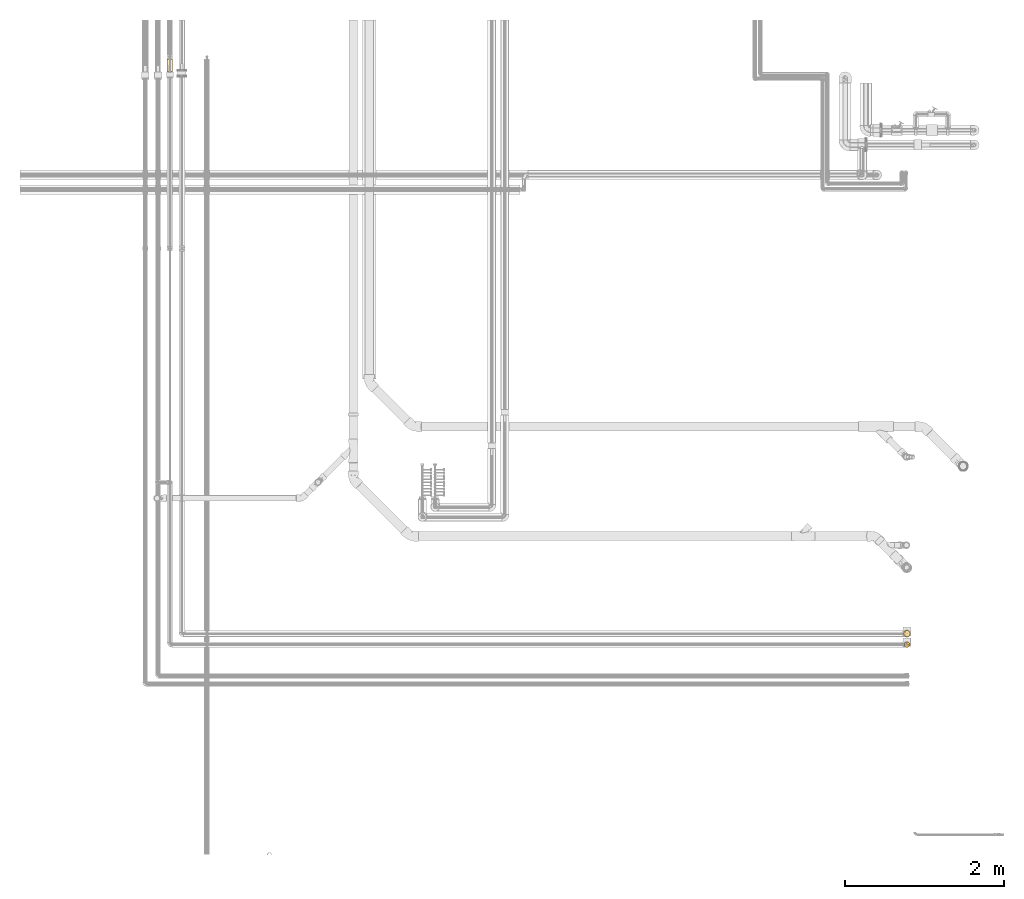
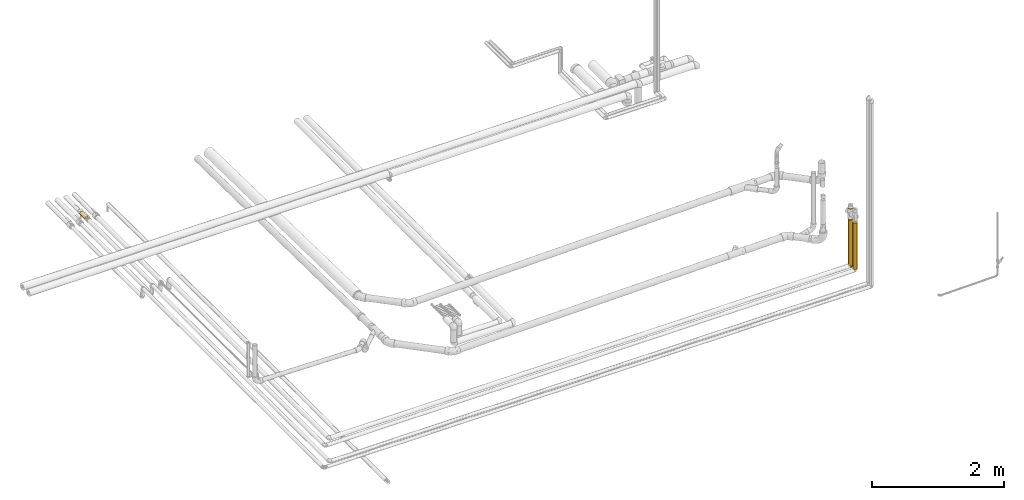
# One storey, part 5 of 83: 6 coverings.
"""IFC2X3 building model written with IfcOpenShell, lengths in millimetres."""

import ifcopenshell
import ifcopenshell.guid

model = None  # the IFC model being written
_history = None  # IfcOwnerHistory: only IFC2X3 demands one
_inside = {}  # id of a spatial element -> (the spatial element, [elements in it])
_under = {}  # id of a project, library or spatial element -> (it, [spatial elements below it])
_declared = {}  # id of a project -> (the project, [libraries it declares])
_typed = {}  # id of a type object -> (the type object, [elements of that type])
_made_of = {}  # id of a material, layer set ... -> (it, [elements and type objects made of it])


def new_model(schema):
    """Start an empty IFC model of exactly this schema.

    Asked for "IFC4X3", IfcOpenShell would pick the latest addendum, in which some entities
    have other attributes; the version numbers below select the first issue.
    IFC2X3 requires an IfcOwnerHistory on every rooted entity: one is made here for all.
    """
    global model, _history
    if schema == "IFC4X3":
        model = ifcopenshell.file(schema_version=(4, 3, 0, 0))
    else:
        model = ifcopenshell.file(schema=schema)
    _inside.clear()
    _under.clear()
    _declared.clear()
    _typed.clear()
    _made_of.clear()
    _history = None
    if model.schema == "IFC2X3":
        org = make("IfcOrganization", Name="unknown")
        user = make(
            "IfcPersonAndOrganization",
            ThePerson=make("IfcPerson", FamilyName="unknown"),
            TheOrganization=org,
        )
        app = make(
            "IfcApplication",
            ApplicationDeveloper=org,
            Version="unknown",
            ApplicationFullName="unknown",
            ApplicationIdentifier="unknown",
        )
        _history = make(
            "IfcOwnerHistory",
            OwningUser=user,
            OwningApplication=app,
            ChangeAction="ADDED",
            CreationDate=0,
        )
    return model


def make(cls, **values):
    """One entity of the class cls with the attributes given. An attribute that is None is left unset."""
    return model.create_entity(
        cls, **{name: value for name, value in values.items() if value is not None}
    )


def entity(cls, *values):
    """Any entity or typed value of the class cls, its attributes in the order of the schema. None: left unset."""
    e = model.create_entity(cls)
    for i, value in enumerate(values):
        if value is not None:
            e[i] = value
    return e


def rooted(cls, **values):
    """An entity with a GlobalId (a new one), such as an element, a storey or a relation."""
    return make(cls, GlobalId=ifcopenshell.guid.new(), OwnerHistory=_history, **values)


def si_unit(unit_type, name, prefix=None):
    """IfcSIUnit, for example si_unit("LENGTHUNIT", "METRE", prefix="MILLI")."""
    return make("IfcSIUnit", UnitType=unit_type, Prefix=prefix, Name=name)


def converted_unit(unit_type, name, factor, base, dimensions=None, offset=None):
    """IfcConversionBasedUnit, such as the inch: factor (a typed value) times the base unit."""
    return make(
        "IfcConversionBasedUnit"
        if offset is None
        else "IfcConversionBasedUnitWithOffset",
        ConversionOffset=offset,
        Dimensions=None
        if dimensions is None
        else entity("IfcDimensionalExponents", *dimensions),
        UnitType=unit_type,
        Name=name,
        ConversionFactor=make(
            "IfcMeasureWithUnit", ValueComponent=factor, UnitComponent=base
        ),
    )


def derived_unit(unit_type, elements):
    """IfcDerivedUnit: a product of units, each with its exponent."""
    return make(
        "IfcDerivedUnit",
        Elements=[
            make("IfcDerivedUnitElement", Unit=unit, Exponent=power)
            for unit, power in elements
        ],
        UnitType=unit_type,
    )


def assignment(units):
    """IfcUnitAssignment: the units of a project."""
    return None if units is None else make("IfcUnitAssignment", Units=units)


def point(xyz):
    """IfcCartesianPoint."""
    return None if xyz is None else make("IfcCartesianPoint", Coordinates=xyz)


def direction(xyz):
    """IfcDirection."""
    return None if xyz is None else make("IfcDirection", DirectionRatios=xyz)


def frame(location, z_axis=None, x_axis=None):
    """IfcAxis2Placement3D, a coordinate frame: its origin and axes. An axis left out is left unset."""
    return make(
        "IfcAxis2Placement3D",
        Location=point(location),
        Axis=direction(z_axis),
        RefDirection=direction(x_axis),
    )


def frame_2d(location, x_axis=None):
    """IfcAxis2Placement2D, a coordinate frame in the plane: its origin and x axis."""
    return make(
        "IfcAxis2Placement2D", Location=point(location), RefDirection=direction(x_axis)
    )


def origin_with_axes():
    """The frame at (0, 0, 0) with the z axis (0, 0, 1) and the x axis (1, 0, 0) written out."""
    return frame((0.0, 0.0, 0.0), z_axis=(0.0, 0.0, 1.0), x_axis=(1.0, 0.0, 0.0))


def origin_2d_with_axis():
    """The frame at (0, 0) in the plane with the x axis (1, 0) written out."""
    return frame_2d((0.0, 0.0), x_axis=(1.0, 0.0))


def place(relative_to, where):
    """IfcLocalPlacement: puts the frame where relative to a parent placement (None: the world)."""
    return make(
        "IfcLocalPlacement", PlacementRelTo=relative_to, RelativePlacement=where
    )


def context(
    kind, dimensions, precision=None, world=None, true_north=None, identifier=None
):
    """IfcGeometricRepresentationContext, for example the 3D "Model" context."""
    return make(
        "IfcGeometricRepresentationContext",
        ContextIdentifier=identifier,
        ContextType=kind,
        CoordinateSpaceDimension=dimensions,
        Precision=precision,
        WorldCoordinateSystem=world,
        TrueNorth=true_north,
    )


def subcontext(parent, identifier, kind, view, scale=None):
    """IfcGeometricRepresentationSubContext, for example "Body" below "Model"."""
    return make(
        "IfcGeometricRepresentationSubContext",
        ContextIdentifier=identifier,
        ContextType=kind,
        ParentContext=parent,
        TargetScale=scale,
        TargetView=view,
    )


def project(units=None, contexts=None):
    """IfcProject with its units and contexts."""
    return rooted(
        "IfcProject",
        Name="project",
        RepresentationContexts=contexts,
        UnitsInContext=assignment(units),
    )


def spatial(cls, under=None, at=None, **own):
    """A site, building, storey or space (cls), placed at a placement, below another one or the project."""
    s = rooted(cls, ObjectPlacement=at, **own)
    if under is not None:
        _under.setdefault(under.id(), (under, []))[1].append(s)
    return s


def profile(cls, at=None, kind="AREA", **sizes):
    """A parametric profile (cls). Its sizes go by their IFC names, for example OverallWidth=200.0."""
    return make(cls, ProfileType=kind, Position=at, **sizes)


def hollow_circle(**sizes):
    """IfcCircleHollowProfileDef."""
    return profile("IfcCircleHollowProfileDef", **sizes)


def extrude(swept, where, along, depth):
    """IfcExtrudedAreaSolid: the profile swept, set in the frame where, extruded along a direction by depth."""
    return make(
        "IfcExtrudedAreaSolid",
        SweptArea=swept,
        Position=where,
        ExtrudedDirection=direction(along),
        Depth=depth,
    )


def faces_of(points, faces, orient=None, outer=None):
    """IfcFace entities. A face is a list of loops; a loop is a list of indices into points, from 0.

    orient and outer hold one flag for each loop. By default every Orientation is true, the
    first loop of a face is its IfcFaceOuterBound and the others are IfcFaceBound.
    """
    made = []
    for i, loops in enumerate(faces):
        bounds = []
        for j, loop in enumerate(loops):
            is_outer = j == 0 if outer is None else outer[i][j]
            bounds.append(
                make(
                    "IfcFaceOuterBound" if is_outer else "IfcFaceBound",
                    Bound=make("IfcPolyLoop", Polygon=[points[k] for k in loop]),
                    Orientation=True if orient is None else orient[i][j],
                )
            )
        made.append(make("IfcFace", Bounds=bounds))
    return made


def open_shell(faces, orient=None, outer=None):
    """The faces of one IfcOpenShell. surface_model builds it on its shared points."""
    return ("IfcOpenShell", faces, orient, outer)


def surface_model(cls, points, shells):
    """IfcFaceBasedSurfaceModel or IfcShellBasedSurfaceModel (cls): surfaces that need not close."""
    shared = [point(p) for p in points]
    made = [make(c, CfsFaces=faces_of(shared, fs, o, b)) for c, fs, o, b in shells]
    if cls == "IfcFaceBasedSurfaceModel":
        return make(cls, FbsmFaces=made)
    return make(cls, SbsmBoundary=made)


def shape(context_of_items, identifier, shape_type, items):
    """IfcShapeRepresentation: the items that make up one representation, for example the "Body"."""
    return make(
        "IfcShapeRepresentation",
        ContextOfItems=context_of_items,
        RepresentationIdentifier=identifier,
        RepresentationType=shape_type,
        Items=items,
    )


def source(mapping_origin, context_of_items, identifier, shape_type, items):
    """IfcRepresentationMap: a shape defined once, which mapped items show again and again."""
    return make(
        "IfcRepresentationMap",
        MappingOrigin=mapping_origin,
        MappedRepresentation=shape(context_of_items, identifier, shape_type, items),
    )


def transform(
    local_origin,
    x_axis=None,
    y_axis=None,
    z_axis=None,
    scale=None,
    scale2=None,
    scale3=None,
    uniform=True,
):
    """IfcCartesianTransformationOperator3D, or its non-uniform kind. x_axis, y_axis, z_axis: its Axis1, 2, 3."""
    if uniform:
        return make(
            "IfcCartesianTransformationOperator3D",
            Axis1=direction(x_axis),
            Axis2=direction(y_axis),
            LocalOrigin=point(local_origin),
            Scale=scale,
            Axis3=direction(z_axis),
        )
    return make(
        "IfcCartesianTransformationOperator3DnonUniform",
        Axis1=direction(x_axis),
        Axis2=direction(y_axis),
        LocalOrigin=point(local_origin),
        Scale=scale,
        Axis3=direction(z_axis),
        Scale2=scale2,
        Scale3=scale3,
    )


def mapped(mapping_source, mapping_target):
    """IfcMappedItem: shows the shape of a source again, moved by a transform."""
    return make(
        "IfcMappedItem", MappingSource=mapping_source, MappingTarget=mapping_target
    )


def made_of(thing, what):
    """Note that an element or type object is made of a material, layer set ...; save() writes the relation."""
    if what is not None:
        _made_of.setdefault(what.id(), (what, []))[1].append(thing)
    return thing


def element(
    cls,
    number,
    at=None,
    inside=None,
    cuts=None,
    type_object=None,
    material=None,
    context=None,
    identifier="Body",
    shape_type=None,
    held_by="IfcProductDefinitionShape",
    body=None,
    shapes=None,
    **own,
):
    """One element of the class cls, such as IfcWall. Its Tag is "e" and its number.

    at: its placement. inside: the storey or other place that contains it. cuts: it is an
    opening in that element (IfcRelVoidsElement). A single representation is given by context,
    identifier, shape_type and body (its items); several are given by shapes. held_by: the class
    of the entity that holds the representations. save() writes the other relations.
    """
    e = rooted(cls, Tag="e%d" % number, ObjectPlacement=at, **own)
    if body is not None:
        shapes = [shape(context, identifier, shape_type, body)]
    if shapes is not None:
        e.Representation = make(held_by, Representations=shapes)
    if inside is not None:
        _inside.setdefault(inside.id(), (inside, []))[1].append(e)
    if cuts is not None:
        rooted(
            "IfcRelVoidsElement", RelatingBuildingElement=cuts, RelatedOpeningElement=e
        )
    if type_object is not None:
        _typed.setdefault(type_object.id(), (type_object, []))[1].append(e)
    return made_of(e, material)


def aggregate(whole, parts):
    """IfcRelAggregates: a whole, such as a stair, and the parts it consists of."""
    return rooted("IfcRelAggregates", RelatingObject=whole, RelatedObjects=parts)


def save(model, path):
    """Write the relations noted so far, then the file.

    IfcRelAggregates (storeys below a building ...), IfcRelContainedInSpatialStructure (elements
    in a storey), IfcRelDefinesByType, IfcRelAssociatesMaterial and IfcRelDeclares: one each for
    every whole, place, type object, material and project.
    """
    for whole, parts in _under.values():
        aggregate(whole, parts)
    for where, things in _inside.values():
        rooted(
            "IfcRelContainedInSpatialStructure",
            RelatedElements=things,
            RelatingStructure=where,
        )
    for kind, things in _typed.values():
        rooted("IfcRelDefinesByType", RelatedObjects=things, RelatingType=kind)
    for what, things in _made_of.values():
        rooted("IfcRelAssociatesMaterial", RelatedObjects=things, RelatingMaterial=what)
    for by, libraries in _declared.values():
        rooted("IfcRelDeclares", RelatingContext=by, RelatedDefinitions=libraries)
    model.write(path)


model = new_model("IFC2X3")

# Units and contexts
model_context = context("Model", 3, precision=0.01, world=frame((0.0, 4.29681676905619e-09, 0.0)), true_north=direction((4.01073788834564e-13, 1.0)))
plan_context = context("Plan", 3, precision=0.01, world=frame((0.0, 4.29681676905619e-09, 0.0)), true_north=direction((4.01073788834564e-13, 1.0)))
body_context = subcontext(model_context, "Body", "Model", "MODEL_VIEW")
ifc_project = project(units=[converted_unit("PLANEANGLEUNIT", "DEGREE", entity("IfcPositiveLengthMeasure", 0.0174532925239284), si_unit("PLANEANGLEUNIT", "RADIAN"), dimensions=[0, 0, 0, 0, 0, 0, 0]), si_unit("AREAUNIT", "SQUARE_METRE"), si_unit("LENGTHUNIT", "METRE", prefix="MILLI"), si_unit("MASSUNIT", "GRAM", prefix="KILO"), si_unit("POWERUNIT", "WATT"), si_unit("PRESSUREUNIT", "PASCAL"), si_unit("FORCEUNIT", "NEWTON", prefix="KILO"), si_unit("ELECTRICVOLTAGEUNIT", "VOLT"), si_unit("ELECTRICCURRENTUNIT", "AMPERE"), si_unit("THERMODYNAMICTEMPERATUREUNIT", "DEGREE_CELSIUS"), si_unit("TIMEUNIT", "SECOND"), si_unit("VOLUMEUNIT", "CUBIC_METRE"), derived_unit("LINEARVELOCITYUNIT", [(si_unit("LENGTHUNIT", "METRE"), 1), (si_unit("TIMEUNIT", "SECOND"), -1)]), derived_unit("VOLUMETRICFLOWRATEUNIT", [(si_unit("VOLUMEUNIT", "CUBIC_METRE"), 1), (si_unit("TIMEUNIT", "SECOND"), -1)]), derived_unit("THERMALTRANSMITTANCEUNIT", [(si_unit("POWERUNIT", "WATT"), 1), (si_unit("THERMODYNAMICTEMPERATUREUNIT", "KELVIN"), -1), (si_unit("AREAUNIT", "SQUARE_METRE"), -1)]), derived_unit("SOUNDPRESSUREUNIT", [(si_unit("PRESSUREUNIT", "PASCAL"), 1)])], contexts=[model_context, plan_context])

# Site, building, storey
site_placement = place(None, frame((0.0, -4.29681676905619e-09, 0.0), z_axis=(0.0, 0.0, 1.0), x_axis=(1.0, 0.0, 0.0)))
site = spatial("IfcSite", under=ifc_project, at=site_placement, Name="ENGM", CompositionType="ELEMENT")
building_placement = place(site_placement, frame((0.0, 4.29681676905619e-09, 0.0), z_axis=(0.0, 0.0, 1.0), x_axis=(1.0, 0.0, 0.0)))
building = spatial("IfcBuilding", under=site, at=building_placement, Name="TI", CompositionType="ELEMENT")
storey_placement = place(building_placement, frame((0.0, 0.0, 204000.0), z_axis=(0.0, 0.0, 1.0), x_axis=(1.0, 0.0, 0.0)))
storey = spatial("IfcBuildingStorey", under=building, at=storey_placement, Name="Nivå D", CompositionType="ELEMENT", Elevation=204000.0)

# Coverings
shared_shape_1 = source(origin_with_axes(), body_context, "Body", "SweptSolid", [
    extrude(hollow_circle(Radius=35.0, WallThickness=21.0, at=origin_2d_with_axis()), frame((0.0, 0.0, 0.0), z_axis=(1.0, 0.0, 0.0), x_axis=(0.0, 1.0, 0.0)), (0.0, 0.0, 1.0), 159.6),
])
covering_1_placement = place(storey_placement, frame((599881.50429, 698985.57232, 6052.17455), z_axis=(0.0, 0.0, 1.0), x_axis=(0.0, -1.0, 0.0)))
element("IfcCovering", 1, at=covering_1_placement, inside=storey, Name="BI15T - Cellegummi KV 15mm", PredefinedType="INSULATION", context=body_context, shape_type="MappedRepresentation", body=[
    mapped(shared_shape_1, transform((0.0, 0.0, 0.0), scale=1.0)),
])
shared_shape_2 = source(origin_with_axes(), body_context, "Body", "SurfaceModel", [
    surface_model("IfcShellBasedSurfaceModel", [(16.92762, 18.0, 35.13482), (24.32205, 18.0, 30.48668), (30.49596, 18.0, 24.31042), (-17.65313, 18.0, -34.77595), (8.68265, 18.0, 38.0212), (35.1405, 18.0, 16.91582), (0.0, 18.0, 39.0), (-17.65313, 18.0, 34.77595), (-9.0716, 18.0, 37.93028), (38.02332, 18.0, 8.67336), (39.0, 18.0, 0.0), (38.0212, 18.0, -8.68265), (30.48668, 18.0, -24.32205), (35.13482, 18.0, -16.92762), (16.91582, 18.0, -35.1405), (24.31042, 18.0, -30.49596), (8.67336, 18.0, -38.02332), (0.0, 18.0, -39.0), (-9.07986, 18.0, -37.9283), (-18.0, 17.65313, 34.77595), (-18.0, 17.65313, -34.77595), (-18.0, 9.07573, -37.92929), (-18.0, 0.0, -39.0), (-18.0, -10.09394, -37.67111), (-18.0, 9.07573, 37.92929), (-18.0, 0.0, 39.0), (-18.0, -19.5, 33.77499), (-18.0, -10.09394, 37.67111), (-18.0, -27.57716, -27.57716), (-18.0, -33.77499, -19.5), (-18.0, -37.67111, -10.09394), (-18.0, -27.57716, 27.57716), (-18.0, -33.77499, 19.5), (-18.0, -37.67111, 10.09394), (-18.0, -39.0, 0.0), (-18.0, -19.5, -33.77499), (-17.75472, 17.75472, 34.77595), (-17.75472, 17.75472, -34.77595), (-10.69693, 8.27754, -38.56024), (-13.43887, 13.4378, -37.25083), (-18.0, 13.87948, -36.16327), (-3.99285, 18.0, -38.52872), (-5.27208, 5.27208, -39.0), (35.07581, 4.32339, -12.8862), (36.44486, 5.15443, 0.0), (-10.74635, -14.11569, -36.0313), (-7.14062, -22.30438, -30.94078), (0.91557, -27.13758, -23.74169), (-9.39098, -30.17764, -23.74169), (-10.11638, -6.44448, -38.23547), (5.42554, -30.40962, -15.51834), (8.91975, -31.09458, -8.81544), (-0.72215, -35.57291, -7.40704), (-3.9434, -34.17081, -14.92465), (11.89905, 10.29643, -36.81332), (18.35467, -18.16043, -20.33964), (22.18548, -9.5792, -24.00244), (26.02833, -11.12519, -17.62569), (-1.55235, 14.25229, -39.0), (28.56689, -12.27186, -10.56569), (-14.25229, 1.55235, -39.0), (24.29328, -1.63402, -26.48413), (28.731, -2.47172, -20.75536), (20.03747, 10.63714, -33.02584), (26.1306, 6.62949, -27.58242), (17.48771, 2.45383, -33.02584), (6.82515, 2.67281, -37.36453), (7.12721, -7.91709, -34.54648), (-0.73871, -3.03295, -37.89712), (3.79072, -18.47926, -30.3503), (14.48749, -13.95874, -27.58242), (32.08869, 8.30463, -20.75536), (34.66113, -3.81296, 0.0), (21.99615, -19.90871, -12.00349), (-8.45406, 3.95406, -39.0), (-5.54567, -4.74018, -38.18583), (-11.63604, 2.63604, -39.0), (-3.10471, 10.50457, -39.0), (22.30509, -22.30509, 0.0), (28.48311, -13.05902, 0.0), (14.2339, -25.80417, -14.03794), (17.78336, -25.60215, -6.78283), (9.85809, -21.74688, -24.25823), (-5.15443, -36.44486, 0.0), (12.10287, -2.65598, -34.32848), (17.84887, -5.61422, -29.99364), (-2.79709, -11.20452, -36.0313), (3.81296, -34.66113, 0.0), (13.05902, -28.48311, 0.0), (0.91273, -27.13877, 23.74169), (3.79294, -18.47705, 30.35091), (-7.14148, -22.30461, 30.94078), (-0.72215, -35.57289, 7.40714), (-9.39266, -30.17794, 23.74169), (-3.9445, -34.17111, 14.92465), (35.07978, 4.32385, 12.87553), (5.42857, -30.40429, 15.52635), (-10.74635, -14.11569, 36.0313), (28.57866, -12.25706, 10.55931), (28.73788, -2.47455, 20.74352), (6.82698, 2.66172, 37.36232), (11.90919, 10.29298, 36.80959), (-3.10471, 10.50457, 39.0), (14.24177, -25.79941, 14.03579), (17.7836, -25.60244, 6.78072), (22.00667, -19.90013, 11.99813), (17.84962, -5.62153, 29.98977), (12.12046, -2.65522, 34.32089), (7.13844, -7.89647, 34.55013), (-0.73859, -3.03309, 37.89708), (-6.03423, -3.68091, 38.40901), (-2.79709, -11.20452, 36.0313), (22.19226, -9.5759, 23.99767), (14.49499, -13.96612, 27.57191), (18.36673, -18.15599, 20.33077), (32.09595, 8.30299, 20.74352), (26.14079, 6.62687, 27.57191), (20.04912, 10.63506, 33.0184), (17.4985, 2.44897, 33.0184), (24.3075, -1.63294, 26.47068), (-10.11638, -6.44448, 38.23547), (-14.25229, 1.55235, 39.0), (9.86568, -21.75613, 24.2432), (-1.55235, 14.25229, 39.0), (8.92002, -31.09382, 8.81775), (-5.27208, 5.27208, 39.0), (-8.45406, 3.95406, 39.0), (-11.63604, 2.63604, 39.0), (25.45146, -12.02518, 17.57382), (-14.54446, 13.3997, 37.02735), (-9.91404, 9.91215, 38.44375), (-18.0, 3.99289, 38.52894), (-13.87942, 18.0, 36.16306)], [open_shell([[[0, 1, 2]], [[2, 3, 4]], [[5, 3, 2]], [[6, 4, 7]], [[6, 7, 8]], [[4, 0, 2]], [[7, 4, 3]], [[5, 9, 10]], [[5, 11, 3]], [[3, 11, 12]], [[12, 11, 13]], [[14, 12, 15]], [[3, 14, 16]], [[14, 3, 12]], [[3, 17, 18]], [[17, 3, 16]], [[11, 5, 10]], [[19, 20, 21]], [[22, 23, 21]], [[19, 21, 23]], [[19, 23, 24]], [[24, 23, 25]], [[25, 26, 27]], [[25, 23, 28]], [[28, 29, 25]], [[25, 29, 26]], [[26, 29, 30]], [[31, 26, 32]], [[26, 33, 32]], [[26, 30, 33]], [[30, 34, 33]], [[28, 23, 35]], [[20, 19, 36]], [[37, 20, 36]], [[7, 3, 36]], [[37, 36, 3]], [[38, 39, 18]], [[37, 39, 40]], [[22, 21, 38]], [[37, 3, 39]], [[3, 18, 39]], [[41, 38, 18]], [[21, 40, 39]], [[41, 42, 38]], [[39, 38, 21]], [[20, 37, 40]], [[22, 38, 42]], [[41, 17, 42]], [[43, 11, 44]], [[35, 23, 45]], [[43, 13, 11]], [[46, 47, 48]], [[23, 49, 45]], [[50, 51, 52]], [[52, 30, 53]], [[14, 54, 16]], [[48, 29, 28]], [[28, 35, 46]], [[55, 56, 57]], [[29, 48, 53]], [[16, 58, 17]], [[43, 59, 57]], [[23, 22, 60]], [[61, 62, 56]], [[63, 64, 65]], [[66, 67, 68]], [[14, 63, 54]], [[63, 14, 15]], [[69, 67, 70]], [[64, 15, 12]], [[71, 64, 12]], [[59, 43, 72]], [[61, 64, 62]], [[55, 57, 73]], [[12, 13, 71]], [[47, 46, 69]], [[72, 43, 44]], [[62, 71, 43]], [[29, 53, 30]], [[74, 75, 76]], [[66, 77, 54]], [[54, 58, 16]], [[78, 59, 79]], [[66, 54, 65]], [[80, 81, 51]], [[45, 46, 35]], [[69, 70, 82]], [[50, 80, 51]], [[30, 52, 83]], [[55, 82, 70]], [[76, 75, 49]], [[67, 84, 85]], [[42, 77, 66]], [[11, 10, 44]], [[43, 71, 13]], [[64, 71, 62]], [[64, 63, 15]], [[54, 63, 65]], [[60, 49, 23]], [[46, 45, 86]], [[46, 86, 69]], [[67, 69, 86]], [[86, 49, 75]], [[85, 84, 65]], [[60, 76, 49]], [[42, 68, 74]], [[86, 45, 49]], [[68, 86, 75]], [[66, 68, 42]], [[86, 68, 67]], [[83, 52, 87]], [[83, 34, 30]], [[81, 78, 88]], [[88, 87, 51]], [[52, 51, 87]], [[73, 81, 80]], [[88, 51, 81]], [[50, 52, 53]], [[53, 47, 50]], [[82, 50, 47]], [[55, 73, 80]], [[73, 59, 78]], [[80, 50, 82]], [[56, 55, 70]], [[80, 82, 55]], [[69, 82, 47]], [[85, 56, 70]], [[57, 56, 62]], [[67, 85, 70]], [[61, 65, 64]], [[67, 66, 84]], [[66, 65, 84]], [[43, 57, 62]], [[57, 59, 73]], [[56, 85, 61]], [[65, 61, 85]], [[46, 48, 28]], [[53, 48, 47]], [[54, 77, 58]], [[59, 72, 79]], [[78, 81, 73]], [[74, 68, 75]], [[89, 90, 91]], [[87, 92, 83]], [[93, 94, 89]], [[5, 95, 9]], [[32, 33, 94]], [[92, 96, 94]], [[27, 26, 97]], [[98, 95, 99]], [[100, 101, 102]], [[101, 0, 4]], [[103, 104, 105]], [[26, 31, 91]], [[106, 107, 108]], [[109, 110, 111]], [[31, 32, 93]], [[112, 113, 114]], [[99, 115, 116]], [[1, 116, 2]], [[31, 93, 91]], [[95, 5, 115]], [[95, 44, 9]], [[1, 0, 117]], [[118, 106, 119]], [[118, 101, 100]], [[101, 118, 117]], [[98, 72, 95]], [[106, 113, 112]], [[27, 120, 121]], [[114, 122, 103]], [[90, 108, 111]], [[27, 121, 25]], [[117, 116, 1]], [[78, 98, 105]], [[5, 2, 115]], [[4, 123, 101]], [[116, 115, 2]], [[98, 78, 79]], [[33, 83, 92]], [[92, 124, 96]], [[87, 88, 124]], [[103, 105, 114]], [[89, 122, 90]], [[97, 91, 111]], [[102, 125, 100]], [[109, 126, 110]], [[44, 95, 72]], [[44, 10, 9]], [[95, 115, 99]], [[101, 117, 0]], [[116, 117, 118]], [[91, 97, 26]], [[120, 27, 97]], [[108, 90, 113]], [[111, 91, 90]], [[108, 113, 106]], [[109, 100, 125]], [[121, 120, 127]], [[97, 111, 120]], [[109, 111, 108]], [[126, 109, 125]], [[120, 110, 127]], [[100, 109, 108]], [[33, 34, 83]], [[104, 124, 88]], [[33, 92, 94]], [[105, 104, 78]], [[78, 104, 88]], [[124, 104, 103]], [[124, 103, 96]], [[124, 92, 87]], [[122, 96, 103]], [[89, 94, 96]], [[127, 110, 126]], [[112, 128, 99]], [[105, 98, 128]], [[122, 114, 113]], [[128, 112, 114]], [[99, 116, 119]], [[119, 112, 99]], [[106, 118, 107]], [[118, 100, 107]], [[100, 108, 107]], [[90, 122, 113]], [[122, 89, 96]], [[105, 128, 114]], [[99, 128, 98]], [[118, 119, 116]], [[106, 112, 119]], [[94, 93, 32]], [[91, 93, 89]], [[123, 4, 6]], [[123, 102, 101]], [[79, 72, 98]], [[111, 110, 120]], [[129, 130, 8]], [[125, 130, 131]], [[19, 24, 129]], [[125, 6, 130]], [[6, 8, 130]], [[132, 129, 8]], [[24, 131, 130]], [[132, 36, 129]], [[130, 129, 24]], [[25, 125, 131]], [[19, 129, 36]], [[132, 7, 36]]])]),
])
covering_2_placement = place(storey_placement, frame((609131.9743, 691772.72914, 6220.0), z_axis=(0.0, -1.0, 0.0), x_axis=(1.0, 0.0, 0.0)))
element("IfcCovering", 2, at=covering_2_placement, inside=storey, Name="BI16T - Rørskål m/Al.folie - VV 40mm", PredefinedType="INSULATION", context=body_context, shape_type="MappedRepresentation", body=[
    mapped(shared_shape_2, transform((0.0, 0.0, 0.0), scale=1.0)),
])
shared_shape_3 = source(origin_with_axes(), body_context, "Body", "SweptSolid", [
    extrude(hollow_circle(Radius=35.0, WallThickness=21.0, at=origin_2d_with_axis()), frame((0.0, 0.0, 0.0), z_axis=(1.0, 0.0, 0.0), x_axis=(0.0, 1.0, 0.0)), (0.0, 0.0, 1.0), 858.9),
])
covering_3_placement = place(storey_placement, frame((609131.50429, 691635.97914, 6248.0), z_axis=(0.0, 1.0, 0.0), x_axis=(0.0, 0.0, 1.0)))
element("IfcCovering", 3, at=covering_3_placement, inside=storey, Name="BI15T - Cellegummi KV 15mm", PredefinedType="INSULATION", context=body_context, shape_type="MappedRepresentation", body=[
    mapped(shared_shape_3, transform((0.0, 0.0, 0.0), scale=1.0)),
])
shared_shape_4 = source(origin_with_axes(), body_context, "Body", "SweptSolid", [
    extrude(hollow_circle(Radius=39.0, WallThickness=30.0, at=origin_2d_with_axis()), frame((0.0, 0.0, 0.0), z_axis=(1.0, 0.0, 0.0), x_axis=(0.0, 1.0, 0.0)), (0.0, 0.0, 1.0), 851.3),
])
covering_4_placement = place(storey_placement, frame((609131.9743, 691772.72914, 6238.0), z_axis=(0.0, 1.0, 0.0), x_axis=(0.0, 0.0, 1.0)))
element("IfcCovering", 4, at=covering_4_placement, inside=storey, Name="BI16T - Rørskål m/Al.folie - VV 40mm", PredefinedType="INSULATION", context=body_context, shape_type="MappedRepresentation", body=[
    mapped(shared_shape_4, transform((0.0, 0.0, 0.0), scale=1.0)),
])
shared_shape_5 = source(origin_with_axes(), body_context, "Body", "SurfaceModel", [
    surface_model("IfcShellBasedSurfaceModel", [(7.0, -21.25, 36.80608), (7.0, -36.80608, 21.25), (7.0, -42.5, 0.0), (7.0, 21.25, -36.80608), (7.0, 21.25, 36.80608), (7.0, 0.0, 42.5), (7.0, 36.80608, 21.25), (7.0, -36.80608, -21.25), (7.0, -21.25, -36.80608), (7.0, 0.0, -42.5), (7.0, 42.5, 0.0), (7.0, 36.80608, -21.25), (0.0, -21.25, 36.80608), (0.0, 0.0, 42.5), (0.0, 21.25, 36.80608), (0.0, -36.80608, -21.25), (0.0, -36.80608, 21.25), (0.0, -42.5, 0.0), (0.0, 42.5, 0.0), (0.0, 36.80608, 21.25), (0.0, 36.80608, -21.25), (0.0, 21.25, -36.80608), (0.0, -21.25, -36.80608), (0.0, 0.0, -42.5), (7.0, -38.85971, -13.58574), (0.0, -39.65304, -10.625), (0.0, -29.02804, -29.02804), (0.0, -13.58574, -38.85971), (7.0, -10.625, -39.65304), (7.0, -29.02804, -29.02804), (7.0, 13.58574, -38.85971), (0.0, 10.625, -39.65304), (0.0, 29.02804, -29.02804), (0.0, 38.85971, -13.58574), (7.0, 39.65304, -10.625), (7.0, 29.02804, -29.02804), (7.0, 38.85971, 13.58574), (0.0, 39.65304, 10.625), (0.0, 29.02804, 29.02804), (0.0, 13.58574, 38.85971), (7.0, 10.625, 39.65304), (7.0, 29.02804, 29.02804), (7.0, -13.58574, 38.85971), (0.0, -10.625, 39.65304), (0.0, -29.02804, 29.02804), (0.0, -38.85971, 13.58574), (7.0, -39.65304, 10.625), (7.0, -29.02804, 29.02804)], [open_shell([[[0, 1, 2]], [[3, 4, 0]], [[0, 4, 5]], [[6, 4, 3]], [[0, 2, 7]], [[8, 3, 0]], [[3, 8, 9]], [[10, 3, 11]], [[10, 6, 3]], [[8, 0, 7]], [[12, 13, 14]], [[14, 15, 12]], [[12, 15, 16]], [[17, 16, 15]], [[18, 14, 19]], [[18, 20, 21]], [[18, 21, 15]], [[21, 22, 15]], [[22, 21, 23]], [[18, 15, 14]], [[15, 24, 25]], [[25, 2, 17]], [[2, 25, 24]], [[8, 26, 22]], [[8, 27, 28]], [[27, 8, 22]], [[26, 8, 29]], [[23, 28, 27]], [[29, 7, 15]], [[29, 15, 26]], [[23, 9, 28]], [[15, 7, 24]], [[21, 30, 31]], [[31, 9, 23]], [[9, 31, 30]], [[11, 32, 20]], [[11, 33, 34]], [[33, 11, 20]], [[32, 11, 35]], [[18, 34, 33]], [[35, 3, 21]], [[35, 21, 32]], [[18, 10, 34]], [[21, 3, 30]], [[19, 36, 37]], [[37, 10, 18]], [[10, 37, 36]], [[4, 38, 14]], [[4, 39, 40]], [[39, 4, 14]], [[38, 4, 41]], [[13, 40, 39]], [[41, 6, 19]], [[41, 19, 38]], [[13, 5, 40]], [[19, 6, 36]], [[12, 42, 43]], [[43, 5, 13]], [[5, 43, 42]], [[1, 44, 16]], [[1, 45, 46]], [[45, 1, 16]], [[44, 1, 47]], [[17, 46, 45]], [[47, 0, 12]], [[47, 12, 44]], [[17, 2, 46]], [[12, 0, 42]]])]),
])
for number, where, z_axis, x_axis in (
    (5, (609131.9743, 691772.72914, 7089.33984), (0.0, 1.0, 0.0), (0.0, 0.0, 1.0)),
    (6, (609131.9743, 691772.72914, 7293.33984), (0.0, 1.0, 0.0), (0.0, 0.0, -1.0)),
):
    element("IfcCovering", number, at=place(storey_placement, frame(where, z_axis=z_axis, x_axis=x_axis)), inside=storey, Name="BI16T - Rørskål m/Al.folie - VV 40mm", PredefinedType="INSULATION", context=body_context, shape_type="MappedRepresentation", body=[
        mapped(shared_shape_5, transform((0.0, 0.0, 0.0), scale=1.0)),
    ])

save(model, "model.ifc")
